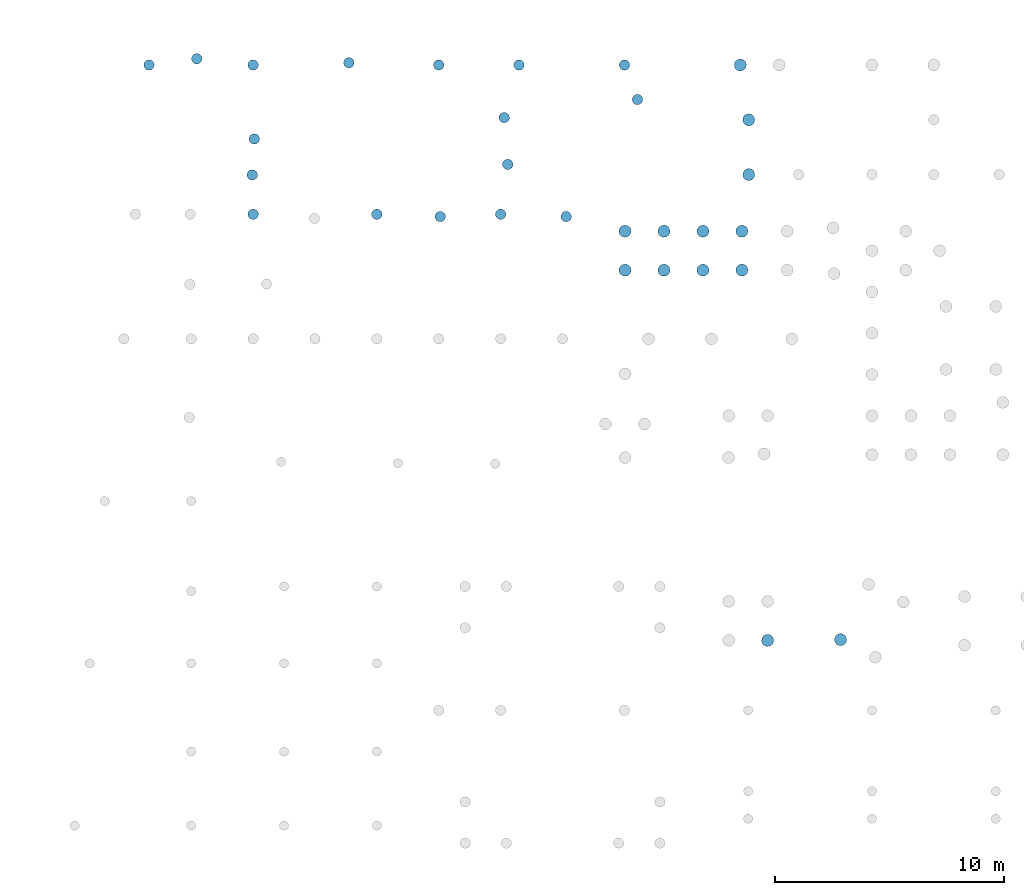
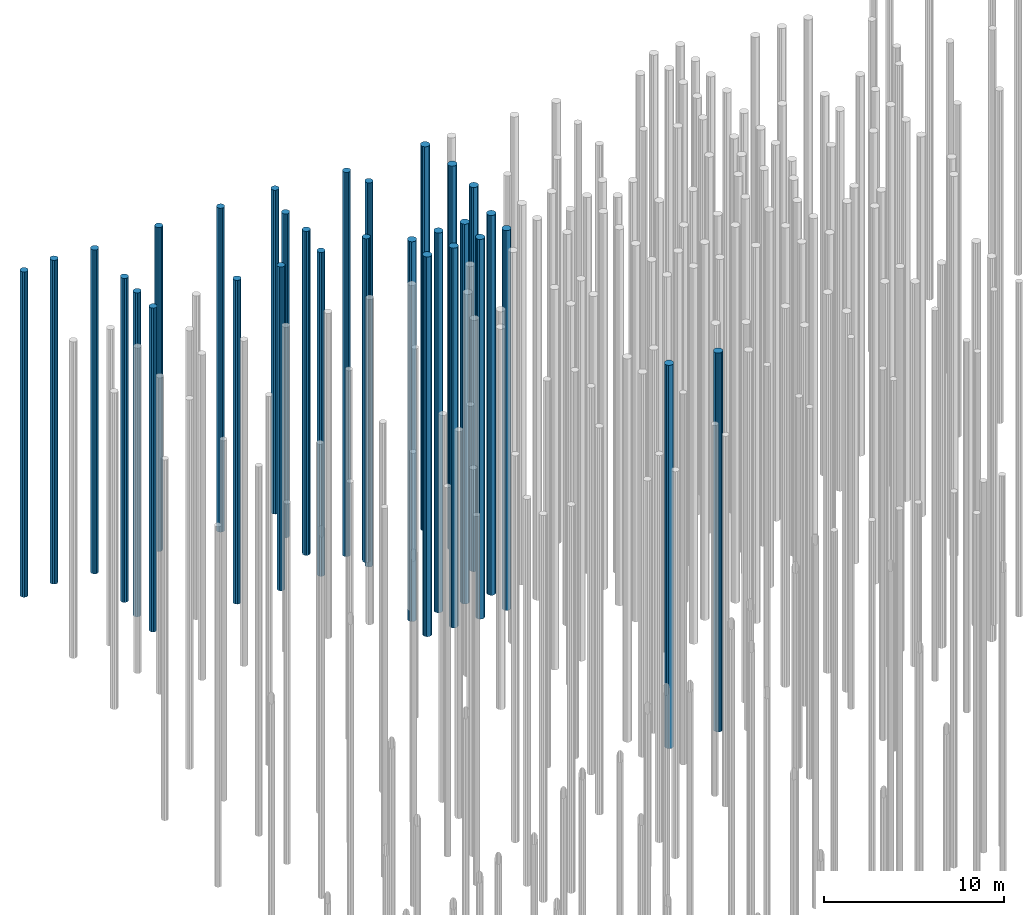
# One storey, part 6 of 20: 30 piles.
"""IFC2X3 building model written with IfcOpenShell, lengths in millimetres."""

from ifc_helpers import new_model, entity, si_unit, converted_unit, derived_unit, direction, frame, origin, place, context, subcontext, project, spatial, polyline, outline, extrude, material, element, save


model = new_model("IFC2X3")

# Units and contexts
model_context = context("Model", 3, precision=0.01, world=origin(), true_north=direction((6.12303176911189e-17, 1.0)))
body_context = subcontext(model_context, "Body", "Model", "MODEL_VIEW")
ifc_project = project(units=[si_unit("LENGTHUNIT", "METRE", prefix="MILLI"), si_unit("AREAUNIT", "SQUARE_METRE"), si_unit("VOLUMEUNIT", "CUBIC_METRE"), converted_unit("PLANEANGLEUNIT", "DEGREE", entity("IfcRatioMeasure", 0.0174532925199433), si_unit("PLANEANGLEUNIT", "RADIAN"), dimensions=[0, 0, 0, 0, 0, 0, 0]), si_unit("MASSUNIT", "GRAM", prefix="KILO"), derived_unit("MASSDENSITYUNIT", [(si_unit("MASSUNIT", "GRAM", prefix="KILO"), 1), (si_unit("LENGTHUNIT", "METRE"), -3)]), si_unit("TIMEUNIT", "SECOND"), si_unit("FREQUENCYUNIT", "HERTZ"), si_unit("THERMODYNAMICTEMPERATUREUNIT", "DEGREE_CELSIUS"), derived_unit("THERMALTRANSMITTANCEUNIT", [(si_unit("MASSUNIT", "GRAM", prefix="KILO"), 1), (si_unit("THERMODYNAMICTEMPERATUREUNIT", "KELVIN"), -1), (si_unit("TIMEUNIT", "SECOND"), -3)]), derived_unit("VOLUMETRICFLOWRATEUNIT", [(si_unit("LENGTHUNIT", "METRE"), 3), (si_unit("TIMEUNIT", "SECOND"), -1)]), si_unit("ELECTRICCURRENTUNIT", "AMPERE"), si_unit("ELECTRICVOLTAGEUNIT", "VOLT"), si_unit("POWERUNIT", "WATT"), si_unit("FORCEUNIT", "NEWTON", prefix="KILO"), si_unit("ILLUMINANCEUNIT", "LUX"), si_unit("LUMINOUSFLUXUNIT", "LUMEN"), si_unit("LUMINOUSINTENSITYUNIT", "CANDELA"), derived_unit("USERDEFINED", [(si_unit("MASSUNIT", "GRAM", prefix="KILO"), -1), (si_unit("LENGTHUNIT", "METRE"), -2), (si_unit("TIMEUNIT", "SECOND"), 3), (si_unit("LUMINOUSFLUXUNIT", "LUMEN"), 1)]), derived_unit("LINEARVELOCITYUNIT", [(si_unit("LENGTHUNIT", "METRE"), 1), (si_unit("TIMEUNIT", "SECOND"), -1)]), si_unit("PRESSUREUNIT", "PASCAL"), derived_unit("USERDEFINED", [(si_unit("LENGTHUNIT", "METRE"), -2), (si_unit("MASSUNIT", "GRAM", prefix="KILO"), 1), (si_unit("TIMEUNIT", "SECOND"), -2)])], contexts=[model_context])

# Site, building, storey
site_placement = place(None, origin())
site = spatial("IfcSite", under=ifc_project, at=site_placement, Name="Default", CompositionType="ELEMENT")
building_placement = place(site_placement, origin())
building = spatial("IfcBuilding", under=site, at=building_placement, Name="niet gebruiken", CompositionType="ELEMENT")
storey_placement = place(building_placement, frame((0.0, 0.0, -4000.0)))
storey = spatial("IfcBuildingStorey", under=building, at=storey_placement, Name="Level t.b.v. palenplan", CompositionType="ELEMENT", Elevation=-4000.0)

# Piles
ifc_material = material(Name="NLRS_f2_beton ihwg")
pile_1_placement = place(storey_placement, origin())
element("IfcPile", 1, at=pile_1_placement, inside=storey, material=ifc_material, Name="NLRS_17.12_SFO_TLB_funderingspaal grondverdringend_gen:Fundex_r530/650", ObjectType="NLRS_17.12_SFO_TLB_funderingspaal grondverdringend_gen:Fundex_r530/650", context=body_context, shape_type="SweptSolid", body=[
    extrude(outline(polyline([(-55.0965980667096, -259.209114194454), (55.0965980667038, -259.209114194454), (155.763091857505, -214.389503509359), (229.496732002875, -132.499999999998), (263.548302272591, -27.7000427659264), (252.029976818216, 81.8895035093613), (196.933378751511, 177.3196106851), (107.785210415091, 242.089546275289), (55.0965980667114, 259.209114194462), (-55.096598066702, 259.209114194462), (-155.763091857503, 214.389503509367), (-229.496732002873, 132.500000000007), (-263.548302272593, 27.7000427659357), (-252.029976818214, -81.8895035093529), (-196.93337875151, -177.319610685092), (-107.78521041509, -242.089546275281), (-55.0965980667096, -259.209114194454)])), frame((33250.0, 28031.0, -23600.0), z_axis=(0.0, 0.0, 1.0), x_axis=(-0.978147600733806, -0.207911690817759, 0.0)), (0.0, 0.0, 1.0), 26070.0),
])
pile_2_placement = place(storey_placement, origin())
element("IfcPile", 2, at=pile_2_placement, inside=storey, material=ifc_material, Name="NLRS_17.12_SFO_TLB_funderingspaal grondverdringend_gen:Fundex_r530/650", ObjectType="NLRS_17.12_SFO_TLB_funderingspaal grondverdringend_gen:Fundex_r530/650", context=body_context, shape_type="SweptSolid", body=[
    extrude(outline(polyline([(-55.096598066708, -259.209114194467), (55.0965980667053, -259.209114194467), (155.763091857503, -214.389503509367), (229.496732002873, -132.500000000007), (263.548302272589, -27.7000427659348), (252.029976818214, 81.8895035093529), (196.933378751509, 177.319610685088), (107.785210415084, 242.089546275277), (55.0965980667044, 259.20911419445), (-55.0965980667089, 259.20911419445), (-155.763091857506, 214.38950350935), (-229.496732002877, 132.49999999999), (-263.548302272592, 27.7000427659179), (-252.029976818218, -81.8895035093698), (-196.933378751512, -177.319610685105), (-107.785210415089, -242.089546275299), (-55.096598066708, -259.209114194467)])), frame((36430.0, 28064.0, -23600.0), z_axis=(0.0, 0.0, 1.0), x_axis=(0.207911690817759, -0.978147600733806, 0.0)), (0.0, 0.0, 1.0), 25770.0),
])
pile_3_placement = place(storey_placement, origin())
element("IfcPile", 3, at=pile_3_placement, inside=storey, material=ifc_material, Name="NLRS_17.12_SFO_TLB_funderingspaal grondverdringend_gen:Fundex_r530/650", ObjectType="NLRS_17.12_SFO_TLB_funderingspaal grondverdringend_gen:Fundex_r530/650", context=body_context, shape_type="SweptSolid", body=[
    extrude(outline(polyline([(-55.0965980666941, -259.209114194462), (55.096598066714, -259.209114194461), (155.763091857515, -214.389503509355), (229.496732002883, -132.499999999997), (263.548302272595, -27.7000427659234), (252.029976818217, 81.8895035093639), (196.933378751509, 177.319610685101), (107.785210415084, 242.089546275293), (55.0965980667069, 259.209114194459), (-55.0965980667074, 259.209114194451), (-155.763091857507, 214.389503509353), (-229.496732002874, 132.499999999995), (-263.548302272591, 27.7000427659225), (-252.029976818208, -81.8895035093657), (-196.933378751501, -177.319610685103), (-107.78521041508, -242.089546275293), (-55.0965980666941, -259.209114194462)])), frame((27025.0, 44181.0, -23600.0), z_axis=(0.0, 0.0, 1.0), x_axis=(-0.978147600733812, -0.207911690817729, 0.0)), (0.0, 0.0, 1.0), 25828.0),
])
pile_4_placement = place(storey_placement, origin())
element("IfcPile", 4, at=pile_4_placement, inside=storey, material=ifc_material, Name="NLRS_17.12_SFO_TLB_funderingspaal grondverdringend_gen:Fundex_r530/650", ObjectType="NLRS_17.12_SFO_TLB_funderingspaal grondverdringend_gen:Fundex_r530/650", context=body_context, shape_type="SweptSolid", body=[
    extrude(outline(polyline([(-55.0965980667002, -259.209114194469), (55.096598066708, -259.209114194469), (155.763091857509, -214.389503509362), (229.496732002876, -132.500000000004), (263.548302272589, -27.700042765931), (252.029976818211, 81.8895035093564), (196.933378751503, 177.319610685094), (107.785210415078, 242.089546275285), (55.0965980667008, 259.209114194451), (-55.0965980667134, 259.209114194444), (-155.763091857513, 214.389503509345), (-229.49673200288, 132.499999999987), (-263.548302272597, 27.700042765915), (-252.029976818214, -81.8895035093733), (-196.933378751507, -177.319610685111), (-107.785210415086, -242.089546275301), (-55.0965980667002, -259.209114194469)])), frame((27025.0, 45881.0, -23600.0), z_axis=(0.0, 0.0, 1.0), x_axis=(-0.978147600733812, -0.207911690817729, 0.0)), (0.0, 0.0, 1.0), 25828.0),
])
pile_5_placement = place(storey_placement, origin())
element("IfcPile", 5, at=pile_5_placement, inside=storey, material=ifc_material, Name="NLRS_17.12_SFO_TLB_funderingspaal grondverdringend_gen:Fundex_r530/650", ObjectType="NLRS_17.12_SFO_TLB_funderingspaal grondverdringend_gen:Fundex_r530/650", context=body_context, shape_type="SweptSolid", body=[
    extrude(outline(polyline([(-55.0965980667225, -259.209114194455), (55.0965980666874, -259.209114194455), (155.76309185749, -214.389503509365), (229.496732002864, -132.500000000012), (263.548302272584, -27.7000427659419), (252.029976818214, 81.8895035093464), (196.933378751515, 177.319610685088), (107.785210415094, 242.089546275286), (55.0965980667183, 259.209114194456), (-55.0965980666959, 259.209114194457), (-155.763091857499, 214.389503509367), (-229.496732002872, 132.500000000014), (-263.548302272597, 27.7000427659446), (-252.029976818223, -81.8895035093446), (-196.933378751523, -177.319610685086), (-107.785210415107, -242.089546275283), (-55.0965980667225, -259.209114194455)])), frame((28725.0, 44181.0, -23600.0), z_axis=(0.0, 0.0, 1.0), x_axis=(-0.978147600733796, -0.207911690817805, 0.0)), (0.0, 0.0, 1.0), 25828.0),
])
pile_6_placement = place(storey_placement, origin())
element("IfcPile", 6, at=pile_6_placement, inside=storey, material=ifc_material, Name="NLRS_17.12_SFO_TLB_funderingspaal grondverdringend_gen:Fundex_r530/650", ObjectType="NLRS_17.12_SFO_TLB_funderingspaal grondverdringend_gen:Fundex_r530/650", context=body_context, shape_type="SweptSolid", body=[
    extrude(outline(polyline([(-55.0965980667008, -259.209114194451), (55.0965980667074, -259.209114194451), (155.763091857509, -214.389503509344), (229.496732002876, -132.499999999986), (263.548302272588, -27.7000427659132), (252.02997681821, 81.8895035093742), (196.933378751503, 177.319610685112), (107.785210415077, 242.089546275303), (55.0965980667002, 259.209114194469), (-55.096598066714, 259.209114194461), (-155.763091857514, 214.389503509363), (-229.496732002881, 132.500000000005), (-263.548302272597, 27.7000427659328), (-252.029976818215, -81.8895035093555), (-196.933378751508, -177.319610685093), (-107.785210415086, -242.089546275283), (-55.0965980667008, -259.209114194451)])), frame((28725.0, 45881.0, -23600.0), z_axis=(0.0, 0.0, 1.0), x_axis=(-0.978147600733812, -0.207911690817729, 0.0)), (0.0, 0.0, 1.0), 25828.0),
])
pile_7_placement = place(storey_placement, origin())
element("IfcPile", 7, at=pile_7_placement, inside=storey, material=ifc_material, Name="NLRS_17.12_SFO_TLB_funderingspaal grondverdringend_gen:Fundex_r530/650", ObjectType="NLRS_17.12_SFO_TLB_funderingspaal grondverdringend_gen:Fundex_r530/650", context=body_context, shape_type="SweptSolid", body=[
    extrude(outline(polyline([(-55.0965980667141, -259.209114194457), (55.0965980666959, -259.209114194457), (155.763091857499, -214.389503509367), (229.496732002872, -132.500000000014), (263.548302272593, -27.7000427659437), (252.029976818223, 81.8895035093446), (196.933378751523, 177.319610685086), (107.785210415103, 242.089546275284), (55.0965980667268, 259.209114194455), (-55.0965980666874, 259.209114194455), (-155.76309185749, 214.389503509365), (-229.496732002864, 132.500000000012), (-263.548302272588, 27.7000427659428), (-252.029976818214, -81.8895035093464), (-196.933378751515, -177.319610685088), (-107.785210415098, -242.089546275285), (-55.0965980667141, -259.209114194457)])), frame((30425.0, 44181.0, -23600.0), z_axis=(0.0, 0.0, 1.0), x_axis=(-0.978147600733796, -0.207911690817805, 0.0)), (0.0, 0.0, 1.0), 25828.0),
])
pile_8_placement = place(storey_placement, origin())
element("IfcPile", 8, at=pile_8_placement, inside=storey, material=ifc_material, Name="NLRS_17.12_SFO_TLB_funderingspaal grondverdringend_gen:Fundex_r530/650", ObjectType="NLRS_17.12_SFO_TLB_funderingspaal grondverdringend_gen:Fundex_r530/650", context=body_context, shape_type="SweptSolid", body=[
    extrude(outline(polyline([(-55.0965980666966, -259.209114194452), (55.0965980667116, -259.209114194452), (155.763091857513, -214.389503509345), (229.49673200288, -132.499999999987), (263.548302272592, -27.700042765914), (252.029976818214, 81.8895035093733), (196.933378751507, 177.319610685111), (107.785210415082, 242.089546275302), (55.0965980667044, 259.209114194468), (-55.0965980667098, 259.209114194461), (-155.763091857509, 214.389503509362), (-229.496732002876, 132.500000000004), (-263.548302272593, 27.7000427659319), (-252.029976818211, -81.8895035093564), (-196.933378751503, -177.319610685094), (-107.785210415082, -242.089546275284), (-55.0965980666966, -259.209114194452)])), frame((30425.0, 45881.0, -23600.0), z_axis=(0.0, 0.0, 1.0), x_axis=(-0.978147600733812, -0.207911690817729, 0.0)), (0.0, 0.0, 1.0), 25828.0),
])
pile_9_placement = place(storey_placement, origin())
element("IfcPile", 9, at=pile_9_placement, inside=storey, material=ifc_material, Name="NLRS_17.12_SFO_TLB_funderingspaal grondverdringend_gen:Fundex_r530/650", ObjectType="NLRS_17.12_SFO_TLB_funderingspaal grondverdringend_gen:Fundex_r530/650", context=body_context, shape_type="SweptSolid", body=[
    extrude(outline(polyline([(-55.0965980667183, -259.209114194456), (55.0965980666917, -259.209114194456), (155.763091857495, -214.389503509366), (229.496732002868, -132.500000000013), (263.548302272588, -27.7000427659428), (252.029976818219, 81.8895035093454), (196.933378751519, 177.319610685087), (107.785210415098, 242.089546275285), (55.0965980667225, 259.209114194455), (-55.0965980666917, 259.209114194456), (-155.763091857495, 214.389503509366), (-229.496732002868, 132.500000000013), (-263.548302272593, 27.7000427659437), (-252.029976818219, -81.8895035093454), (-196.933378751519, -177.319610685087), (-107.785210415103, -242.089546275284), (-55.0965980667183, -259.209114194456)])), frame((32125.0, 44181.0, -23600.0), z_axis=(0.0, 0.0, 1.0), x_axis=(-0.978147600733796, -0.207911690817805, 0.0)), (0.0, 0.0, 1.0), 25828.0),
])
pile_10_placement = place(storey_placement, origin())
element("IfcPile", 10, at=pile_10_placement, inside=storey, material=ifc_material, Name="NLRS_17.12_SFO_TLB_funderingspaal grondverdringend_gen:Fundex_r530/650", ObjectType="NLRS_17.12_SFO_TLB_funderingspaal grondverdringend_gen:Fundex_r530/650", context=body_context, shape_type="SweptSolid", body=[
    extrude(outline(polyline([(-55.0965980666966, -259.209114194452), (55.0965980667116, -259.209114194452), (155.763091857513, -214.389503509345), (229.49673200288, -132.499999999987), (263.548302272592, -27.700042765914), (252.029976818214, 81.8895035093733), (196.933378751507, 177.319610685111), (107.785210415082, 242.089546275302), (55.0965980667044, 259.209114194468), (-55.0965980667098, 259.209114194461), (-155.763091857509, 214.389503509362), (-229.496732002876, 132.500000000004), (-263.548302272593, 27.7000427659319), (-252.029976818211, -81.8895035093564), (-196.933378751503, -177.319610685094), (-107.785210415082, -242.089546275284), (-55.0965980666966, -259.209114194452)])), frame((32125.0, 45881.0, -23600.0), z_axis=(0.0, 0.0, 1.0), x_axis=(-0.978147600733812, -0.207911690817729, 0.0)), (0.0, 0.0, 1.0), 25828.0),
])
pile_11_placement = place(storey_placement, origin())
element("IfcPile", 11, at=pile_11_placement, inside=storey, material=ifc_material, Name="NLRS_17.12_SFO_TLB_funderingspaal grondverdringend_gen:Fundex_r530/650", ObjectType="NLRS_17.12_SFO_TLB_funderingspaal grondverdringend_gen:Fundex_r530/650", context=body_context, shape_type="SweptSolid", body=[
    extrude(outline(polyline([(-55.0965980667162, -259.209114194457), (55.096598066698, -259.209114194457), (155.763091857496, -214.389503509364), (229.496732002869, -132.500000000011), (263.548302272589, -27.7000427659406), (252.029976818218, 81.8895035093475), (196.933378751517, 177.319610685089), (107.785210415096, 242.089546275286), (55.0965980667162, 259.209114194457), (-55.096598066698, 259.209114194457), (-155.763091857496, 214.389503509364), (-229.496732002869, 132.500000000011), (-263.548302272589, 27.7000427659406), (-252.029976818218, -81.8895035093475), (-196.933378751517, -177.319610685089), (-107.785210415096, -242.089546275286), (-55.0965980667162, -259.209114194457)])), frame((32425.0, 48351.0, -23600.0), z_axis=(0.0, 0.0, 1.0), x_axis=(-0.978147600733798, -0.207911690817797, 0.0)), (0.0, 0.0, 1.0), 26128.0),
])
pile_12_placement = place(storey_placement, origin())
element("IfcPile", 12, at=pile_12_placement, inside=storey, material=ifc_material, Name="NLRS_17.12_SFO_TLB_funderingspaal grondverdringend_gen:Fundex_r530/650", ObjectType="NLRS_17.12_SFO_TLB_funderingspaal grondverdringend_gen:Fundex_r530/650", context=body_context, shape_type="SweptSolid", body=[
    extrude(outline(polyline([(-55.0965980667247, -259.209114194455), (55.0965980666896, -259.209114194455), (155.763091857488, -214.389503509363), (229.496732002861, -132.50000000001), (263.54830227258, -27.7000427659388), (252.02997681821, 81.8895035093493), (196.933378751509, 177.31961068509), (107.785210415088, 242.089546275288), (55.0965980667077, 259.209114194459), (-55.0965980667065, 259.209114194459), (-155.763091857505, 214.389503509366), (-229.496732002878, 132.500000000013), (-263.548302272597, 27.7000427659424), (-252.029976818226, -81.8895035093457), (-196.933378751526, -177.319610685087), (-107.785210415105, -242.089546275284), (-55.0965980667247, -259.209114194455)])), frame((32425.0, 50741.0, -23600.0), z_axis=(0.0, 0.0, 1.0), x_axis=(-0.978147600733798, -0.207911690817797, 0.0)), (0.0, 0.0, 1.0), 26128.0),
])
pile_13_placement = place(storey_placement, origin())
element("IfcPile", 13, at=pile_13_placement, inside=storey, material=ifc_material, Name="NLRS_17.12_SFO_TLB_funderingspaal grondverdringend_gen:Fundex_r530/650", ObjectType="NLRS_17.12_SFO_TLB_funderingspaal grondverdringend_gen:Fundex_r530/650", context=body_context, shape_type="SweptSolid", body=[
    extrude(outline(polyline([(-55.0965980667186, -259.209114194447), (55.0965980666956, -259.209114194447), (155.763091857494, -214.389503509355), (229.496732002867, -132.500000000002), (263.548302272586, -27.7000427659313), (252.029976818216, 81.8895035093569), (196.933378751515, 177.319610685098), (107.785210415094, 242.089546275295), (55.0965980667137, 259.209114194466), (-55.0965980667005, 259.209114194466), (-155.763091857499, 214.389503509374), (-229.496732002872, 132.500000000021), (-263.548302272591, 27.70004276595), (-252.02997681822, -81.8895035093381), (-196.93337875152, -177.319610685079), (-107.785210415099, -242.089546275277), (-55.0965980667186, -259.209114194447)])), frame((32055.0, 53131.0, -23600.0), z_axis=(0.0, 0.0, 1.0), x_axis=(-0.978147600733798, -0.207911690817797, 0.0)), (0.0, 0.0, 1.0), 26128.0),
])
pile_14_placement = place(storey_placement, origin())
element("IfcPile", 14, at=pile_14_placement, inside=storey, material=ifc_material, Name="NLRS_17.12_SFO_TLB_funderingspaal grondverdringend_gen:Fundex_r460/560", ObjectType="NLRS_17.12_SFO_TLB_funderingspaal grondverdringend_gen:Fundex_r460/560", context=body_context, shape_type="SweptSolid", body=[
    extrude(outline(polyline([(-25.7518295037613, -228.553808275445), (25.7518295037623, -228.553808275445), (122.367377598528, -194.746565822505), (194.746565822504, -122.367377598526), (228.553808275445, -25.7518295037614), (217.093165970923, 75.9641842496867), (162.634559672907, 162.634559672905), (75.9641842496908, 217.093165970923), (25.7518295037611, 228.553808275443), (-25.7518295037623, 228.553808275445), (-122.367377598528, 194.746565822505), (-194.746565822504, 122.367377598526), (-228.553808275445, 25.7518295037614), (-217.093165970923, -75.9641842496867), (-162.634559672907, -162.634559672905), (-75.9641842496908, -217.093165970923), (-25.7518295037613, -228.553808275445)])), frame((10800.0, 46621.0, -19100.0), z_axis=(0.0, 0.0, 1.0), x_axis=(0.11196447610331, -0.993712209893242, 0.0)), (0.0, 0.0, 1.0), 22018.0),
])
pile_15_placement = place(storey_placement, origin())
element("IfcPile", 15, at=pile_15_placement, inside=storey, material=ifc_material, Name="NLRS_17.12_SFO_TLB_funderingspaal grondverdringend_gen:Fundex_r460/560", ObjectType="NLRS_17.12_SFO_TLB_funderingspaal grondverdringend_gen:Fundex_r460/560", context=body_context, shape_type="SweptSolid", body=[
    extrude(outline(polyline([(-25.7518295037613, -228.553808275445), (25.7518295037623, -228.553808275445), (122.367377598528, -194.746565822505), (194.746565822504, -122.367377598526), (228.553808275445, -25.7518295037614), (217.093165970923, 75.9641842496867), (162.634559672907, 162.634559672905), (75.9641842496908, 217.093165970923), (25.7518295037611, 228.553808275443), (-25.7518295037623, 228.553808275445), (-122.367377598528, 194.746565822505), (-194.746565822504, 122.367377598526), (-228.553808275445, 25.7518295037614), (-217.093165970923, -75.9641842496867), (-162.634559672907, -162.634559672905), (-75.9641842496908, -217.093165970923), (-25.7518295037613, -228.553808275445)])), frame((16200.0, 46621.0, -19100.0), z_axis=(0.0, 0.0, 1.0), x_axis=(0.11196447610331, -0.993712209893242, 0.0)), (0.0, 0.0, 1.0), 22018.0),
])
pile_16_placement = place(storey_placement, origin())
element("IfcPile", 16, at=pile_16_placement, inside=storey, material=ifc_material, Name="NLRS_17.12_SFO_TLB_funderingspaal grondverdringend_gen:Fundex_r460/560", ObjectType="NLRS_17.12_SFO_TLB_funderingspaal grondverdringend_gen:Fundex_r460/560", context=body_context, shape_type="SweptSolid", body=[
    extrude(outline(polyline([(-25.7518295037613, -228.553808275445), (25.7518295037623, -228.553808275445), (122.367377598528, -194.746565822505), (194.746565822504, -122.367377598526), (228.553808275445, -25.7518295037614), (217.093165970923, 75.9641842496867), (162.634559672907, 162.634559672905), (75.9641842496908, 217.093165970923), (25.7518295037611, 228.553808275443), (-25.7518295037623, 228.553808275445), (-122.367377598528, 194.746565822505), (-194.746565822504, 122.367377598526), (-228.553808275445, 25.7518295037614), (-217.093165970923, -75.9641842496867), (-162.634559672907, -162.634559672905), (-75.9641842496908, -217.093165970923), (-25.7518295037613, -228.553808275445)])), frame((18964.4637137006, 46519.5769836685, -19100.0), z_axis=(0.0, 0.0, 1.0), x_axis=(0.11196447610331, -0.993712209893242, 0.0)), (0.0, 0.0, 1.0), 22018.0),
])
pile_17_placement = place(storey_placement, origin())
element("IfcPile", 17, at=pile_17_placement, inside=storey, material=ifc_material, Name="NLRS_17.12_SFO_TLB_funderingspaal grondverdringend_gen:Fundex_r460/560", ObjectType="NLRS_17.12_SFO_TLB_funderingspaal grondverdringend_gen:Fundex_r460/560", context=body_context, shape_type="SweptSolid", body=[
    extrude(outline(polyline([(-25.7518295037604, -228.553808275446), (25.751829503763, -228.553808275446), (122.367377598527, -194.746565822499), (194.7465658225, -122.367377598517), (228.553808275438, -25.7518295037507), (217.093165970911, 75.9641842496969), (162.634559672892, 162.634559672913), (75.9641842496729, 217.093165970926), (25.7518295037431, 228.553808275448), (-25.7518295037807, 228.553808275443), (-122.367377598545, 194.746565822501), (-194.746565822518, 122.367377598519), (-228.553808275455, 25.7518295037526), (-217.093165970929, -75.964184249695), (-162.634559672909, -162.634559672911), (-75.9641842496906, -217.093165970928), (-25.7518295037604, -228.553808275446)])), frame((21600.0, 46621.0, -19100.0), z_axis=(0.0, 0.0, 1.0), x_axis=(0.111964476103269, -0.993712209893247, 0.0)), (0.0, 0.0, 1.0), 22018.0),
])
pile_18_placement = place(storey_placement, origin())
element("IfcPile", 18, at=pile_18_placement, inside=storey, material=ifc_material, Name="NLRS_17.12_SFO_TLB_funderingspaal grondverdringend_gen:Fundex_r460/560", ObjectType="NLRS_17.12_SFO_TLB_funderingspaal grondverdringend_gen:Fundex_r460/560", context=body_context, shape_type="SweptSolid", body=[
    extrude(outline(polyline([(-25.7518295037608, -228.55380827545), (25.7518295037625, -228.55380827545), (122.367377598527, -194.746565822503), (194.7465658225, -122.367377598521), (228.553808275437, -25.751829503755), (217.093165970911, 75.9641842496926), (162.634559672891, 162.634559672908), (75.9641842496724, 217.093165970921), (25.7518295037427, 228.553808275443), (-25.7518295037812, 228.553808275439), (-122.367377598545, 194.746565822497), (-194.746565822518, 122.367377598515), (-228.553808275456, 25.7518295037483), (-217.093165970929, -75.9641842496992), (-162.634559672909, -162.634559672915), (-75.9641842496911, -217.093165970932), (-25.7518295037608, -228.55380827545)])), frame((24456.5492640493, 46519.2122718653, -19100.0), z_axis=(0.0, 0.0, 1.0), x_axis=(0.111964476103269, -0.993712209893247, 0.0)), (0.0, 0.0, 1.0), 22018.0),
])
pile_19_placement = place(storey_placement, origin())
element("IfcPile", 19, at=pile_19_placement, inside=storey, material=ifc_material, Name="NLRS_17.12_SFO_TLB_funderingspaal grondverdringend_gen:Fundex_r460/560", ObjectType="NLRS_17.12_SFO_TLB_funderingspaal grondverdringend_gen:Fundex_r460/560", context=body_context, shape_type="SweptSolid", body=[
    extrude(outline(polyline([(-25.7518295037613, -228.553808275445), (25.7518295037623, -228.553808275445), (122.367377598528, -194.746565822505), (194.746565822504, -122.367377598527), (228.553808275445, -25.7518295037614), (217.093165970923, 75.9641842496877), (162.634559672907, 162.634559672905), (75.9641842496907, 217.093165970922), (25.7518295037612, 228.553808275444), (-25.7518295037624, 228.553808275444), (-122.367377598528, 194.746565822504), (-194.746565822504, 122.367377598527), (-228.553808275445, 25.7518295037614), (-217.093165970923, -75.9641842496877), (-162.634559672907, -162.634559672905), (-75.9641842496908, -217.093165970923), (-25.7518295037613, -228.553808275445)])), frame((8341.91164900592, 53405.8385902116, -19100.0), z_axis=(0.0, 0.0, 1.0), x_axis=(0.11196447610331, -0.993712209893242, 0.0)), (0.0, 0.0, 1.0), 22018.0),
])
pile_20_placement = place(storey_placement, origin())
element("IfcPile", 20, at=pile_20_placement, inside=storey, material=ifc_material, Name="NLRS_17.12_SFO_TLB_funderingspaal grondverdringend_gen:Fundex_r460/560", ObjectType="NLRS_17.12_SFO_TLB_funderingspaal grondverdringend_gen:Fundex_r460/560", context=body_context, shape_type="SweptSolid", body=[
    extrude(outline(polyline([(-25.7518295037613, -228.553808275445), (25.7518295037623, -228.553808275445), (122.367377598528, -194.746565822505), (194.746565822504, -122.367377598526), (228.553808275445, -25.7518295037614), (217.093165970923, 75.9641842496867), (162.634559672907, 162.634559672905), (75.9641842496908, 217.093165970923), (25.7518295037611, 228.553808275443), (-25.7518295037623, 228.553808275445), (-122.367377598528, 194.746565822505), (-194.746565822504, 122.367377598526), (-228.553808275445, 25.7518295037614), (-217.093165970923, -75.9641842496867), (-162.634559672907, -162.634559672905), (-75.9641842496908, -217.093165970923), (-25.7518295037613, -228.553808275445)])), frame((10762.2345964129, 48336.5614749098, -19100.0), z_axis=(0.0, 0.0, 1.0), x_axis=(0.11196447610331, -0.993712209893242, 0.0)), (0.0, 0.0, 1.0), 22028.0),
])
pile_21_placement = place(storey_placement, origin())
element("IfcPile", 21, at=pile_21_placement, inside=storey, material=ifc_material, Name="NLRS_17.12_SFO_TLB_funderingspaal grondverdringend_gen:Fundex_r460/560", ObjectType="NLRS_17.12_SFO_TLB_funderingspaal grondverdringend_gen:Fundex_r460/560", context=body_context, shape_type="SweptSolid", body=[
    extrude(outline(polyline([(-25.7518295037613, -228.553808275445), (25.7518295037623, -228.553808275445), (122.367377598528, -194.746565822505), (194.746565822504, -122.367377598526), (228.553808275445, -25.7518295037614), (217.093165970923, 75.9641842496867), (162.634559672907, 162.634559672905), (75.9641842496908, 217.093165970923), (25.7518295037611, 228.553808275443), (-25.7518295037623, 228.553808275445), (-122.367377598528, 194.746565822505), (-194.746565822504, 122.367377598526), (-228.553808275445, 25.7518295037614), (-217.093165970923, -75.9641842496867), (-162.634559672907, -162.634559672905), (-75.9641842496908, -217.093165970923), (-25.7518295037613, -228.553808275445)])), frame((10852.4101091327, 49907.1464675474, -19100.0), z_axis=(0.0, 0.0, 1.0), x_axis=(0.11196447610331, -0.993712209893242, 0.0)), (0.0, 0.0, 1.0), 22028.0),
])
pile_22_placement = place(storey_placement, origin())
element("IfcPile", 22, at=pile_22_placement, inside=storey, material=ifc_material, Name="NLRS_17.12_SFO_TLB_funderingspaal grondverdringend_gen:Fundex_r460/560", ObjectType="NLRS_17.12_SFO_TLB_funderingspaal grondverdringend_gen:Fundex_r460/560", context=body_context, shape_type="SweptSolid", body=[
    extrude(outline(polyline([(-25.7518295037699, -228.553808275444), (25.7518295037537, -228.553808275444), (122.367377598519, -194.746565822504), (194.746565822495, -122.367377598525), (228.553808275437, -25.7518295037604), (217.093165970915, 75.9641842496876), (162.634559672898, 162.634559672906), (75.9641842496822, 217.093165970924), (25.7518295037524, 228.553808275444), (-25.7518295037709, 228.553808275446), (-122.367377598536, 194.746565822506), (-194.746565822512, 122.367377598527), (-228.553808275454, 25.7518295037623), (-217.093165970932, -75.9641842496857), (-162.634559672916, -162.634559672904), (-75.9641842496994, -217.093165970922), (-25.7518295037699, -228.553808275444)])), frame((10800.0, 53131.0, -19100.0), z_axis=(0.0, 0.0, 1.0), x_axis=(0.11196447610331, -0.993712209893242, 0.0)), (0.0, 0.0, 1.0), 22028.0),
])
pile_23_placement = place(storey_placement, origin())
element("IfcPile", 23, at=pile_23_placement, inside=storey, material=ifc_material, Name="NLRS_17.12_SFO_TLB_funderingspaal grondverdringend_gen:Fundex_r460/560", ObjectType="NLRS_17.12_SFO_TLB_funderingspaal grondverdringend_gen:Fundex_r460/560", context=body_context, shape_type="SweptSolid", body=[
    extrude(outline(polyline([(-25.7518295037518, -228.553808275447), (25.7518295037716, -228.553808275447), (122.367377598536, -194.7465658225), (194.746565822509, -122.367377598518), (228.553808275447, -25.7518295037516), (217.09316597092, 75.9641842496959), (162.6345596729, 162.634559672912), (75.9641842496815, 217.093165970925), (25.7518295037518, 228.553808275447), (-25.7518295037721, 228.553808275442), (-122.367377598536, 194.7465658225), (-194.746565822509, 122.367377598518), (-228.553808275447, 25.7518295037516), (-217.09316597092, -75.9641842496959), (-162.6345596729, -162.634559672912), (-75.964184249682, -217.093165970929), (-25.7518295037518, -228.553808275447)])), frame((21910.8794204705, 48796.8764605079, -19100.0), z_axis=(0.0, 0.0, 1.0), x_axis=(0.111964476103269, -0.993712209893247, 0.0)), (0.0, 0.0, 1.0), 22028.0),
])
pile_24_placement = place(storey_placement, origin())
element("IfcPile", 24, at=pile_24_placement, inside=storey, material=ifc_material, Name="NLRS_17.12_SFO_TLB_funderingspaal grondverdringend_gen:Fundex_r460/560", ObjectType="NLRS_17.12_SFO_TLB_funderingspaal grondverdringend_gen:Fundex_r460/560", context=body_context, shape_type="SweptSolid", body=[
    extrude(outline(polyline([(-25.7518295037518, -228.553808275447), (25.7518295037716, -228.553808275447), (122.367377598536, -194.7465658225), (194.746565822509, -122.367377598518), (228.553808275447, -25.7518295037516), (217.09316597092, 75.9641842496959), (162.6345596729, 162.634559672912), (75.9641842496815, 217.093165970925), (25.7518295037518, 228.553808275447), (-25.7518295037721, 228.553808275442), (-122.367377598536, 194.7465658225), (-194.746565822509, 122.367377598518), (-228.553808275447, 25.7518295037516), (-217.09316597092, -75.9641842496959), (-162.6345596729, -162.634559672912), (-75.964184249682, -217.093165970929), (-25.7518295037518, -228.553808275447)])), frame((21754.5329646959, 50838.094427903, -19100.0), z_axis=(0.0, 0.0, 1.0), x_axis=(0.111964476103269, -0.993712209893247, 0.0)), (0.0, 0.0, 1.0), 22028.0),
])
pile_25_placement = place(storey_placement, origin())
element("IfcPile", 25, at=pile_25_placement, inside=storey, material=ifc_material, Name="NLRS_17.12_SFO_TLB_funderingspaal grondverdringend_gen:Fundex_r460/560", ObjectType="NLRS_17.12_SFO_TLB_funderingspaal grondverdringend_gen:Fundex_r460/560", context=body_context, shape_type="SweptSolid", body=[
    extrude(outline(polyline([(-25.7518295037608, -228.55380827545), (25.7518295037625, -228.55380827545), (122.367377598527, -194.746565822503), (194.7465658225, -122.367377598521), (228.553808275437, -25.751829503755), (217.093165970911, 75.9641842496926), (162.634559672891, 162.634559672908), (75.9641842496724, 217.093165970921), (25.7518295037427, 228.553808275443), (-25.7518295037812, 228.553808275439), (-122.367377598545, 194.746565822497), (-194.746565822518, 122.367377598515), (-228.553808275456, 25.7518295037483), (-217.093165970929, -75.9641842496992), (-162.634559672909, -162.634559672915), (-75.9641842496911, -217.093165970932), (-25.7518295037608, -228.55380827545)])), frame((22400.0, 53131.0, -19100.0), z_axis=(0.0, 0.0, 1.0), x_axis=(0.111964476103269, -0.993712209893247, 0.0)), (0.0, 0.0, 1.0), 22028.0),
])
pile_26_placement = place(storey_placement, origin())
element("IfcPile", 26, at=pile_26_placement, inside=storey, material=ifc_material, Name="NLRS_17.12_SFO_TLB_funderingspaal grondverdringend_gen:Fundex_r460/560", ObjectType="NLRS_17.12_SFO_TLB_funderingspaal grondverdringend_gen:Fundex_r460/560", context=body_context, shape_type="SweptSolid", body=[
    extrude(outline(polyline([(-25.7518295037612, -228.553808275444), (25.7518295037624, -228.553808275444), (122.367377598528, -194.746565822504), (194.746565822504, -122.367377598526), (228.553808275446, -25.7518295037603), (217.093165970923, 75.9641842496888), (162.634559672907, 162.634559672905), (75.9641842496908, 217.093165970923), (25.7518295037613, 228.553808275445), (-25.7518295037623, 228.553808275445), (-122.367377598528, 194.746565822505), (-194.746565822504, 122.367377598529), (-228.553808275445, 25.7518295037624), (-217.093165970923, -75.9641842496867), (-162.634559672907, -162.634559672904), (-75.9641842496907, -217.093165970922), (-25.7518295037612, -228.553808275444)])), frame((6260.0, 53131.0, -19100.0), z_axis=(0.0, 0.0, 1.0), x_axis=(0.11196447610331, -0.993712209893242, 0.0)), (0.0, 0.0, 1.0), 22118.0),
])
pile_27_placement = place(storey_placement, origin())
element("IfcPile", 27, at=pile_27_placement, inside=storey, material=ifc_material, Name="NLRS_17.12_SFO_TLB_funderingspaal grondverdringend_gen:Fundex_r460/560", ObjectType="NLRS_17.12_SFO_TLB_funderingspaal grondverdringend_gen:Fundex_r460/560", context=body_context, shape_type="SweptSolid", body=[
    extrude(outline(polyline([(-25.7518295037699, -228.553808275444), (25.7518295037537, -228.553808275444), (122.367377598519, -194.746565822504), (194.746565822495, -122.367377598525), (228.553808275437, -25.7518295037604), (217.093165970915, 75.9641842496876), (162.634559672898, 162.634559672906), (75.9641842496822, 217.093165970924), (25.7518295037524, 228.553808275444), (-25.7518295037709, 228.553808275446), (-122.367377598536, 194.746565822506), (-194.746565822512, 122.367377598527), (-228.553808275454, 25.7518295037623), (-217.093165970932, -75.9641842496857), (-162.634559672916, -162.634559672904), (-75.9641842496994, -217.093165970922), (-25.7518295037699, -228.553808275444)])), frame((14980.2524444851, 53231.1294434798, -19100.0), z_axis=(0.0, 0.0, 1.0), x_axis=(0.11196447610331, -0.993712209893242, 0.0)), (0.0, 0.0, 1.0), 22028.0),
])
pile_28_placement = place(storey_placement, origin())
element("IfcPile", 28, at=pile_28_placement, inside=storey, material=ifc_material, Name="NLRS_17.12_SFO_TLB_funderingspaal grondverdringend_gen:Fundex_r460/560", ObjectType="NLRS_17.12_SFO_TLB_funderingspaal grondverdringend_gen:Fundex_r460/560", context=body_context, shape_type="SweptSolid", body=[
    extrude(outline(polyline([(-25.7518295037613, -228.553808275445), (25.7518295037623, -228.553808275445), (122.367377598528, -194.746565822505), (194.746565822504, -122.367377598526), (228.553808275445, -25.7518295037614), (217.093165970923, 75.9641842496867), (162.634559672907, 162.634559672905), (75.9641842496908, 217.093165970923), (25.7518295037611, 228.553808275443), (-25.7518295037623, 228.553808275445), (-122.367377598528, 194.746565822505), (-194.746565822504, 122.367377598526), (-228.553808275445, 25.7518295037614), (-217.093165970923, -75.9641842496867), (-162.634559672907, -162.634559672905), (-75.9641842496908, -217.093165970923), (-25.7518295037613, -228.553808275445)])), frame((18900.0, 53131.0, -19100.0), z_axis=(0.0, 0.0, 1.0), x_axis=(0.11196447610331, -0.993712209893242, 0.0)), (0.0, 0.0, 1.0), 22028.0),
])
pile_29_placement = place(storey_placement, origin())
element("IfcPile", 29, at=pile_29_placement, inside=storey, material=ifc_material, Name="NLRS_17.12_SFO_TLB_funderingspaal grondverdringend_gen:Fundex_r460/560", ObjectType="NLRS_17.12_SFO_TLB_funderingspaal grondverdringend_gen:Fundex_r460/560", context=body_context, shape_type="SweptSolid", body=[
    extrude(outline(polyline([(-25.7518295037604, -228.553808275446), (25.751829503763, -228.553808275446), (122.367377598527, -194.746565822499), (194.7465658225, -122.367377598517), (228.553808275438, -25.7518295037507), (217.093165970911, 75.9641842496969), (162.634559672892, 162.634559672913), (75.9641842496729, 217.093165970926), (25.7518295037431, 228.553808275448), (-25.7518295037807, 228.553808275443), (-122.367377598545, 194.746565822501), (-194.746565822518, 122.367377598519), (-228.553808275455, 25.7518295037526), (-217.093165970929, -75.964184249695), (-162.634559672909, -162.634559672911), (-75.9641842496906, -217.093165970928), (-25.7518295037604, -228.553808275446)])), frame((27000.0, 53131.0, -23600.0), z_axis=(0.0, 0.0, 1.0), x_axis=(0.111964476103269, -0.993712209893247, 0.0)), (0.0, 0.0, 1.0), 26128.0),
])
pile_30_placement = place(storey_placement, origin())
element("IfcPile", 30, at=pile_30_placement, inside=storey, material=ifc_material, Name="NLRS_17.12_SFO_TLB_funderingspaal grondverdringend_gen:Fundex_r460/560", ObjectType="NLRS_17.12_SFO_TLB_funderingspaal grondverdringend_gen:Fundex_r460/560", context=body_context, shape_type="SweptSolid", body=[
    extrude(outline(polyline([(-25.7518295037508, -228.553808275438), (25.7518295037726, -228.553808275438), (122.367377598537, -194.746565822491), (194.74656582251, -122.367377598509), (228.553808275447, -25.751829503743), (217.093165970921, 75.9641842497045), (162.634559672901, 162.63455967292), (75.9641842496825, 217.093165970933), (25.7518295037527, 228.553808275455), (-25.7518295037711, 228.553808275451), (-122.367377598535, 194.746565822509), (-194.746565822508, 122.367377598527), (-228.553808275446, 25.7518295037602), (-217.093165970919, -75.9641842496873), (-162.634559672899, -162.634559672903), (-75.964184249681, -217.09316597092), (-25.7518295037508, -228.553808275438)])), frame((27568.7496995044, 51627.5973852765, -23600.0), z_axis=(0.0, 0.0, 1.0), x_axis=(0.111964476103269, -0.993712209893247, 0.0)), (0.0, 0.0, 1.0), 26128.0),
])

save(model, "model.ifc")
